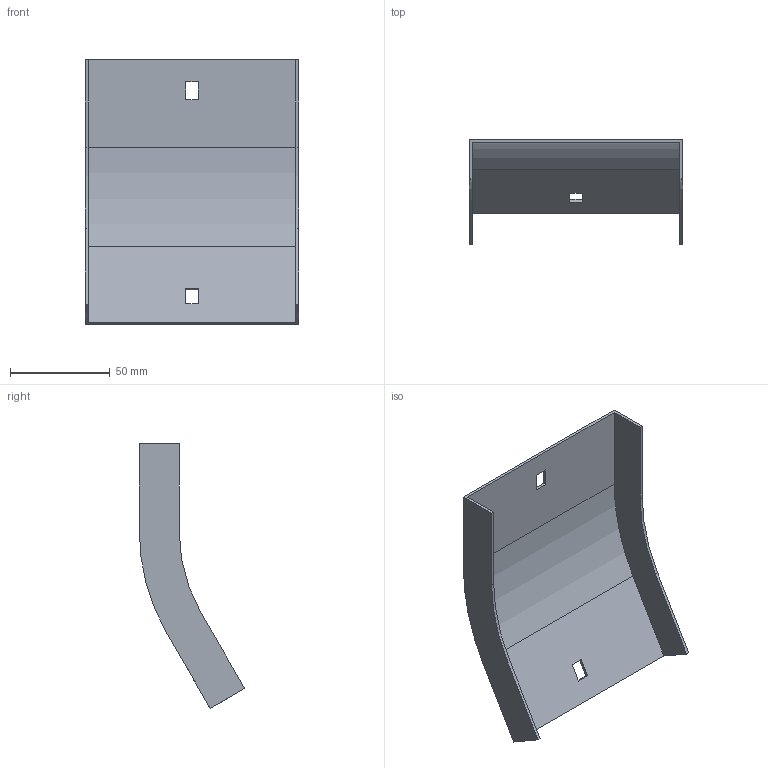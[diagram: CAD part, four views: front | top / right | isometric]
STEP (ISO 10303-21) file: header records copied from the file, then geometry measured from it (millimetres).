
FILE_DESCRIPTION (( 'STEP AP214' ), '1' );
FILE_NAME ('35G1B100.step', '2025-02-21T12:41:17', ( '' ), ( '' ), 'SwSTEP 2.0', 'SolidWorks 2023', '' );
FILE_SCHEMA (( 'AUTOMOTIVE_DESIGN' ));
Length unit declared in the file: millimetre
Products named in the file (1): 35G1B100
Bounding box: 107 x 52.92 x 132.86 mm (x, y, z)
Volume: 29936.5 mm3; surface area: 40833.5 mm2
Topology: 1 solids, 1 shells, 26 faces, 72 edges, 48 vertices
Faces by surface type: plane 22, cylinder 4
Entity records: 855 total; most frequent: CARTESIAN_POINT 147, ORIENTED_EDGE 144, DIRECTION 134, EDGE_CURVE 72, LINE 64, VECTOR 64, VERTEX_POINT 48, AXIS2_PLACEMENT_3D 35
